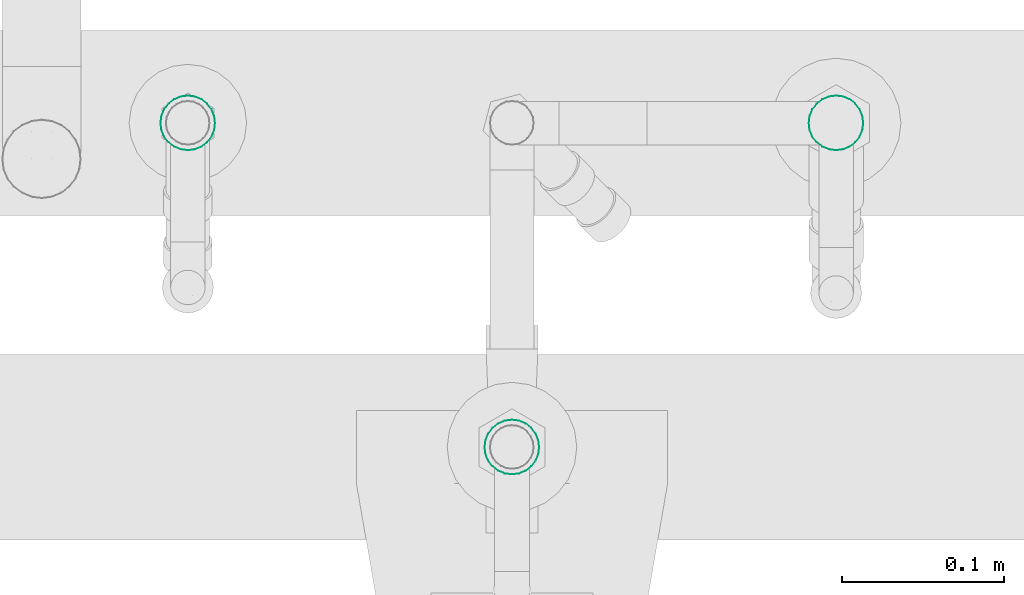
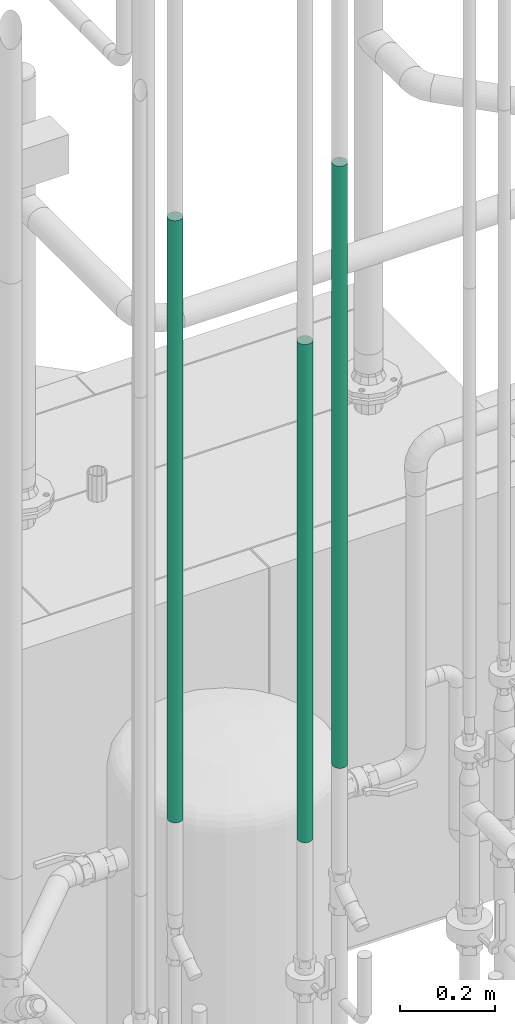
# One storey, part 8 of 374: 3 flow segments.
"""IFC2X3 building model written with IfcOpenShell, lengths in metres."""

import ifcopenshell
import ifcopenshell.guid

model = None  # the IFC model being written
_history = None  # IfcOwnerHistory: only IFC2X3 demands one
_inside = {}  # id of a spatial element -> (the spatial element, [elements in it])
_under = {}  # id of a project, library or spatial element -> (it, [spatial elements below it])
_declared = {}  # id of a project -> (the project, [libraries it declares])
_typed = {}  # id of a type object -> (the type object, [elements of that type])
_made_of = {}  # id of a material, layer set ... -> (it, [elements and type objects made of it])


def new_model(schema):
    """Start an empty IFC model of exactly this schema.

    Asked for "IFC4X3", IfcOpenShell would pick the latest addendum, in which some entities
    have other attributes; the version numbers below select the first issue.
    IFC2X3 requires an IfcOwnerHistory on every rooted entity: one is made here for all.
    """
    global model, _history
    if schema == "IFC4X3":
        model = ifcopenshell.file(schema_version=(4, 3, 0, 0))
    else:
        model = ifcopenshell.file(schema=schema)
    _inside.clear()
    _under.clear()
    _declared.clear()
    _typed.clear()
    _made_of.clear()
    _history = None
    if model.schema == "IFC2X3":
        org = make("IfcOrganization", Name="unknown")
        user = make(
            "IfcPersonAndOrganization",
            ThePerson=make("IfcPerson", FamilyName="unknown"),
            TheOrganization=org,
        )
        app = make(
            "IfcApplication",
            ApplicationDeveloper=org,
            Version="unknown",
            ApplicationFullName="unknown",
            ApplicationIdentifier="unknown",
        )
        _history = make(
            "IfcOwnerHistory",
            OwningUser=user,
            OwningApplication=app,
            ChangeAction="ADDED",
            CreationDate=0,
        )
    return model


def make(cls, **values):
    """One entity of the class cls with the attributes given. An attribute that is None is left unset."""
    return model.create_entity(
        cls, **{name: value for name, value in values.items() if value is not None}
    )


def rooted(cls, **values):
    """An entity with a GlobalId (a new one), such as an element, a storey or a relation."""
    return make(cls, GlobalId=ifcopenshell.guid.new(), OwnerHistory=_history, **values)


def si_unit(unit_type, name, prefix=None):
    """IfcSIUnit, for example si_unit("LENGTHUNIT", "METRE", prefix="MILLI")."""
    return make("IfcSIUnit", UnitType=unit_type, Prefix=prefix, Name=name)


def assignment(units):
    """IfcUnitAssignment: the units of a project."""
    return None if units is None else make("IfcUnitAssignment", Units=units)


def point(xyz):
    """IfcCartesianPoint."""
    return None if xyz is None else make("IfcCartesianPoint", Coordinates=xyz)


def direction(xyz):
    """IfcDirection."""
    return None if xyz is None else make("IfcDirection", DirectionRatios=xyz)


def frame(location, z_axis=None, x_axis=None):
    """IfcAxis2Placement3D, a coordinate frame: its origin and axes. An axis left out is left unset."""
    return make(
        "IfcAxis2Placement3D",
        Location=point(location),
        Axis=direction(z_axis),
        RefDirection=direction(x_axis),
    )


def origin():
    """The frame at (0, 0, 0) with its axes left unset."""
    return frame((0.0, 0.0, 0.0))


def place(relative_to, where):
    """IfcLocalPlacement: puts the frame where relative to a parent placement (None: the world)."""
    return make(
        "IfcLocalPlacement", PlacementRelTo=relative_to, RelativePlacement=where
    )


def context(
    kind, dimensions, precision=None, world=None, true_north=None, identifier=None
):
    """IfcGeometricRepresentationContext, for example the 3D "Model" context."""
    return make(
        "IfcGeometricRepresentationContext",
        ContextIdentifier=identifier,
        ContextType=kind,
        CoordinateSpaceDimension=dimensions,
        Precision=precision,
        WorldCoordinateSystem=world,
        TrueNorth=true_north,
    )


def subcontext(parent, identifier, kind, view, scale=None):
    """IfcGeometricRepresentationSubContext, for example "Body" below "Model"."""
    return make(
        "IfcGeometricRepresentationSubContext",
        ContextIdentifier=identifier,
        ContextType=kind,
        ParentContext=parent,
        TargetScale=scale,
        TargetView=view,
    )


def project(units=None, contexts=None):
    """IfcProject with its units and contexts."""
    return rooted(
        "IfcProject",
        Name="project",
        RepresentationContexts=contexts,
        UnitsInContext=assignment(units),
    )


def spatial(cls, under=None, at=None, **own):
    """A site, building, storey or space (cls), placed at a placement, below another one or the project."""
    s = rooted(cls, ObjectPlacement=at, **own)
    if under is not None:
        _under.setdefault(under.id(), (under, []))[1].append(s)
    return s


def faces_of(points, faces, orient=None, outer=None):
    """IfcFace entities. A face is a list of loops; a loop is a list of indices into points, from 0.

    orient and outer hold one flag for each loop. By default every Orientation is true, the
    first loop of a face is its IfcFaceOuterBound and the others are IfcFaceBound.
    """
    made = []
    for i, loops in enumerate(faces):
        bounds = []
        for j, loop in enumerate(loops):
            is_outer = j == 0 if outer is None else outer[i][j]
            bounds.append(
                make(
                    "IfcFaceOuterBound" if is_outer else "IfcFaceBound",
                    Bound=make("IfcPolyLoop", Polygon=[points[k] for k in loop]),
                    Orientation=True if orient is None else orient[i][j],
                )
            )
        made.append(make("IfcFace", Bounds=bounds))
    return made


def open_shell(faces, orient=None, outer=None):
    """The faces of one IfcOpenShell. surface_model builds it on its shared points."""
    return ("IfcOpenShell", faces, orient, outer)


def surface_model(cls, points, shells):
    """IfcFaceBasedSurfaceModel or IfcShellBasedSurfaceModel (cls): surfaces that need not close."""
    shared = [point(p) for p in points]
    made = [make(c, CfsFaces=faces_of(shared, fs, o, b)) for c, fs, o, b in shells]
    if cls == "IfcFaceBasedSurfaceModel":
        return make(cls, FbsmFaces=made)
    return make(cls, SbsmBoundary=made)


def shape(context_of_items, identifier, shape_type, items):
    """IfcShapeRepresentation: the items that make up one representation, for example the "Body"."""
    return make(
        "IfcShapeRepresentation",
        ContextOfItems=context_of_items,
        RepresentationIdentifier=identifier,
        RepresentationType=shape_type,
        Items=items,
    )


def source(mapping_origin, context_of_items, identifier, shape_type, items):
    """IfcRepresentationMap: a shape defined once, which mapped items show again and again."""
    return make(
        "IfcRepresentationMap",
        MappingOrigin=mapping_origin,
        MappedRepresentation=shape(context_of_items, identifier, shape_type, items),
    )


def transform(
    local_origin,
    x_axis=None,
    y_axis=None,
    z_axis=None,
    scale=None,
    scale2=None,
    scale3=None,
    uniform=True,
):
    """IfcCartesianTransformationOperator3D, or its non-uniform kind. x_axis, y_axis, z_axis: its Axis1, 2, 3."""
    if uniform:
        return make(
            "IfcCartesianTransformationOperator3D",
            Axis1=direction(x_axis),
            Axis2=direction(y_axis),
            LocalOrigin=point(local_origin),
            Scale=scale,
            Axis3=direction(z_axis),
        )
    return make(
        "IfcCartesianTransformationOperator3DnonUniform",
        Axis1=direction(x_axis),
        Axis2=direction(y_axis),
        LocalOrigin=point(local_origin),
        Scale=scale,
        Axis3=direction(z_axis),
        Scale2=scale2,
        Scale3=scale3,
    )


def mapped(mapping_source, mapping_target):
    """IfcMappedItem: shows the shape of a source again, moved by a transform."""
    return make(
        "IfcMappedItem", MappingSource=mapping_source, MappingTarget=mapping_target
    )


def made_of(thing, what):
    """Note that an element or type object is made of a material, layer set ...; save() writes the relation."""
    if what is not None:
        _made_of.setdefault(what.id(), (what, []))[1].append(thing)
    return thing


def element(
    cls,
    number,
    at=None,
    inside=None,
    cuts=None,
    type_object=None,
    material=None,
    context=None,
    identifier="Body",
    shape_type=None,
    held_by="IfcProductDefinitionShape",
    body=None,
    shapes=None,
    **own,
):
    """One element of the class cls, such as IfcWall. Its Tag is "e" and its number.

    at: its placement. inside: the storey or other place that contains it. cuts: it is an
    opening in that element (IfcRelVoidsElement). A single representation is given by context,
    identifier, shape_type and body (its items); several are given by shapes. held_by: the class
    of the entity that holds the representations. save() writes the other relations.
    """
    e = rooted(cls, Tag="e%d" % number, ObjectPlacement=at, **own)
    if body is not None:
        shapes = [shape(context, identifier, shape_type, body)]
    if shapes is not None:
        e.Representation = make(held_by, Representations=shapes)
    if inside is not None:
        _inside.setdefault(inside.id(), (inside, []))[1].append(e)
    if cuts is not None:
        rooted(
            "IfcRelVoidsElement", RelatingBuildingElement=cuts, RelatedOpeningElement=e
        )
    if type_object is not None:
        _typed.setdefault(type_object.id(), (type_object, []))[1].append(e)
    return made_of(e, material)


def aggregate(whole, parts):
    """IfcRelAggregates: a whole, such as a stair, and the parts it consists of."""
    return rooted("IfcRelAggregates", RelatingObject=whole, RelatedObjects=parts)


def save(model, path):
    """Write the relations noted so far, then the file.

    IfcRelAggregates (storeys below a building ...), IfcRelContainedInSpatialStructure (elements
    in a storey), IfcRelDefinesByType, IfcRelAssociatesMaterial and IfcRelDeclares: one each for
    every whole, place, type object, material and project.
    """
    for whole, parts in _under.values():
        aggregate(whole, parts)
    for where, things in _inside.values():
        rooted(
            "IfcRelContainedInSpatialStructure",
            RelatedElements=things,
            RelatingStructure=where,
        )
    for kind, things in _typed.values():
        rooted("IfcRelDefinesByType", RelatedObjects=things, RelatingType=kind)
    for what, things in _made_of.values():
        rooted("IfcRelAssociatesMaterial", RelatedObjects=things, RelatingMaterial=what)
    for by, libraries in _declared.values():
        rooted("IfcRelDeclares", RelatingContext=by, RelatedDefinitions=libraries)
    model.write(path)


model = new_model("IFC2X3")

# Units and contexts
model_context = context("Model", 3, precision=1e-05, world=origin(), true_north=direction((-0.4480736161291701, 0.8939966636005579)))
body_context = subcontext(model_context, "Body", "Model", "MODEL_VIEW")
ifc_project = project(units=[si_unit("LENGTHUNIT", "METRE"), si_unit("AREAUNIT", "SQUARE_METRE"), si_unit("VOLUMEUNIT", "CUBIC_METRE"), si_unit("PLANEANGLEUNIT", "RADIAN"), si_unit("THERMODYNAMICTEMPERATUREUNIT", "KELVIN"), si_unit("MASSUNIT", "GRAM", prefix="KILO"), si_unit("TIMEUNIT", "SECOND")], contexts=[model_context])

# Site, building, storey
site_placement = place(None, origin())
site = spatial("IfcSite", under=ifc_project, at=site_placement, Name="Site 1", CompositionType="ELEMENT")
building_placement = place(site_placement, origin())
building = spatial("IfcBuilding", under=site, at=building_placement, Name="Undefined", CompositionType="ELEMENT")
storey_placement = place(building_placement, origin())
storey = spatial("IfcBuildingStorey", under=building, at=storey_placement, Name="Rez de chauss\x8ee", CompositionType="ELEMENT", Elevation=0.0)

# Flow segments
shared_shape_1 = source(origin(), body_context, "Body", "SurfaceModel", [
    surface_model("IfcFaceBasedSurfaceModel", [(0.0, 0.004398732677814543, 0.0), (0.0, 0.0, 0.0), (1.2806734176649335, 8.8817842e-16, 0.0), (1.2806734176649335, 0.004398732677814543, 0.0), (0.0, -0.004248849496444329, -0.00113847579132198), (1.2806734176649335, -0.004248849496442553, -0.0011384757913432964), (0.0, -0.008058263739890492, -0.003337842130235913), (1.2806734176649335, -0.008058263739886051, -0.003337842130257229), (0.0, -0.01116863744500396, -0.0064482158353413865), (1.2806734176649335, -0.01116863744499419, -0.006448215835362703), (0.0, -0.013368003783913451, -0.010257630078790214), (1.2806734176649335, -0.013368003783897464, -0.010257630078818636), (0.0, -0.014506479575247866, -0.014506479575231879), (1.2806734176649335, -0.014506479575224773, -0.0145064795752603), (0.0, -0.01450647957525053, -0.01890521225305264), (1.2806734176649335, -0.014506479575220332, -0.018905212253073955), (0.0, -0.013368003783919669, -0.023154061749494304), (1.2806734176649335, -0.013368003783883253, -0.023154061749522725), (0.0, -0.011168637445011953, -0.02696347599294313), (1.2806734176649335, -0.011168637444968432, -0.026963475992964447), (0.0, -0.008058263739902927, -0.03007384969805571), (1.2806734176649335, -0.008058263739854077, -0.03007384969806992), (0.0, -0.004248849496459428, -0.03227321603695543), (1.2806734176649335, -0.004248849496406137, -0.03227321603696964), (0.0, -1.5099033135e-14, -0.03341169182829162), (1.2806734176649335, 3.8191672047e-14, -0.03341169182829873), (0.0, 0.00439873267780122, -0.03341169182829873), (1.2806734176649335, 0.004398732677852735, -0.03341169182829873), (0.0, 0.008647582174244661, -0.03227321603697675), (1.2806734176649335, 0.008647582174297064, -0.03227321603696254), (0.0, 0.012456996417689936, -0.030073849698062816), (1.2806734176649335, 0.012456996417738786, -0.0300738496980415), (0.0, 0.01556737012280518, -0.026963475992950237), (1.2806734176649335, 0.015567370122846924, -0.026963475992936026), (0.0, 0.017766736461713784, -0.023154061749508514), (1.2806734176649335, 0.01776673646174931, -0.023154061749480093), (0.0, 0.018905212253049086, -0.01890521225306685), (1.2806734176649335, 0.018905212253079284, -0.018905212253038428), (0.0, 0.018905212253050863, -0.01450647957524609), (1.2806734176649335, 0.01890521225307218, -0.014506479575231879), (0.0, 0.01776673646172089, -0.01025763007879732), (1.2806734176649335, 0.017766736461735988, -0.010257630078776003), (0.0, 0.015567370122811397, -0.006448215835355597), (1.2806734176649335, 0.015567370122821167, -0.006448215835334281), (0.0, 0.012456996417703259, -0.0033378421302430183), (1.2806734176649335, 0.012456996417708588, -0.003337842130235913), (0.0, 0.00864758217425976, -0.0011384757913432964), (1.2806734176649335, 0.00864758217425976, -0.0011384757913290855)], [open_shell([[[0, 1, 2, 3]], [[1, 4, 5, 2]], [[4, 6, 7, 5]], [[6, 8, 9, 7]], [[8, 10, 11, 9]], [[10, 12, 13, 11]], [[12, 14, 15, 13]], [[14, 16, 17, 15]], [[16, 18, 19, 17]], [[18, 20, 21, 19]], [[20, 22, 23, 21]], [[22, 24, 25, 23]], [[24, 26, 27, 25]], [[26, 28, 29, 27]], [[28, 30, 31, 29]], [[30, 32, 33, 31]], [[32, 34, 35, 33]], [[34, 36, 37, 35]], [[36, 38, 39, 37]], [[38, 40, 41, 39]], [[40, 42, 43, 41]], [[42, 44, 45, 43]], [[44, 46, 47, 45]], [[46, 0, 3, 47]]])]),
])
flow_segment_1_placement = place(storey_placement, origin())
element("IfcFlowSegment", 1, at=flow_segment_1_placement, inside=storey, Name="Tube acier d'après DIN 2448", ObjectType="Tube acier d'après DIN 2448", context=body_context, shape_type="MappedRepresentation", body=[
    mapped(shared_shape_1, transform((53.27383786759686, 10.722398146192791, 2.0695279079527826), x_axis=(0.0, 0.0, 1.0), y_axis=(0.13052619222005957, -0.9914448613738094, 0.0), z_axis=(0.9914448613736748, 0.13052619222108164, 0.0))),
])
shared_shape_2 = source(origin(), body_context, "Body", "SurfaceModel", [
    surface_model("IfcFaceBasedSurfaceModel", [(0.0, 0.004398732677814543, 0.0), (0.0, 0.0, 0.0), (1.5475720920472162, 0.0, 0.0), (1.5475720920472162, 0.004398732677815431, 0.0), (0.0, -0.004248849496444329, -0.00113847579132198), (1.5475720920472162, -0.004248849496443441, -0.0011384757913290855), (0.0, -0.008058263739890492, -0.003337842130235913), (1.5475720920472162, -0.008058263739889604, -0.003337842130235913), (0.0, -0.01116863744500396, -0.0064482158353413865), (1.5475720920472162, -0.011168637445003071, -0.006448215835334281), (0.0, -0.013368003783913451, -0.010257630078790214), (1.5475720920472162, -0.013368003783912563, -0.010257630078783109), (0.0, -0.014506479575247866, -0.014506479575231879), (1.5475720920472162, -0.014506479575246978, -0.014506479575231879), (0.0, -0.01450647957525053, -0.01890521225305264), (1.5475720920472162, -0.014506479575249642, -0.018905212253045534), (0.0, -0.013368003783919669, -0.023154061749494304), (1.5475720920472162, -0.01336800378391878, -0.023154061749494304), (0.0, -0.011168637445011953, -0.02696347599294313), (1.5475720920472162, -0.011168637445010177, -0.026963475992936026), (0.0, -0.008058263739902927, -0.03007384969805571), (1.5475720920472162, -0.008058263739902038, -0.030073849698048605), (0.0, -0.004248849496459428, -0.03227321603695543), (1.5475720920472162, -0.00424884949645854, -0.03227321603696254), (0.0, -1.5099033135e-14, -0.03341169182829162), (1.5475720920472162, -1.5099033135e-14, -0.03341169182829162), (0.0, 0.00439873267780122, -0.03341169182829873), (1.5475720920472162, 0.004398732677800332, -0.03341169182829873), (0.0, 0.008647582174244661, -0.03227321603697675), (1.5475720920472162, 0.008647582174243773, -0.03227321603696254), (0.0, 0.012456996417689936, -0.030073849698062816), (1.5475720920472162, 0.012456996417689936, -0.03007384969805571), (0.0, 0.01556737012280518, -0.026963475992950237), (1.5475720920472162, 0.015567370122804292, -0.026963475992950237), (0.0, 0.017766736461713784, -0.023154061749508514), (1.5475720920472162, 0.01776673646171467, -0.02315406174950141), (0.0, 0.018905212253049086, -0.01890521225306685), (1.5475720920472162, 0.018905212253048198, -0.018905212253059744), (0.0, 0.018905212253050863, -0.01450647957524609), (1.5475720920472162, 0.01890521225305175, -0.01450647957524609), (0.0, 0.01776673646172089, -0.01025763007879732), (1.5475720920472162, 0.01776673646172, -0.01025763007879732), (0.0, 0.015567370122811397, -0.006448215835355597), (1.5475720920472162, 0.015567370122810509, -0.006448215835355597), (0.0, 0.012456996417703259, -0.0033378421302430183), (1.5475720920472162, 0.01245699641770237, -0.0033378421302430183), (0.0, 0.00864758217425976, -0.0011384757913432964), (1.5475720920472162, 0.008647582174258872, -0.001138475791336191)], [open_shell([[[0, 1, 2, 3]], [[1, 4, 5, 2]], [[4, 6, 7, 5]], [[6, 8, 9, 7]], [[8, 10, 11, 9]], [[10, 12, 13, 11]], [[12, 14, 15, 13]], [[14, 16, 17, 15]], [[16, 18, 19, 17]], [[18, 20, 21, 19]], [[20, 22, 23, 21]], [[22, 24, 25, 23]], [[24, 26, 27, 25]], [[26, 28, 29, 27]], [[28, 30, 31, 29]], [[30, 32, 33, 31]], [[32, 34, 35, 33]], [[34, 36, 37, 35]], [[36, 38, 39, 37]], [[38, 40, 41, 39]], [[40, 42, 43, 41]], [[42, 44, 45, 43]], [[44, 46, 47, 45]], [[46, 0, 3, 47]]])]),
])
flow_segment_2_placement = place(storey_placement, origin())
element("IfcFlowSegment", 2, at=flow_segment_2_placement, inside=storey, Name="Tube acier d'après DIN 2448", ObjectType="Tube acier d'après DIN 2448", context=body_context, shape_type="MappedRepresentation", body=[
    mapped(shared_shape_2, transform((53.04128616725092, 10.913675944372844, 2.0695279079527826), x_axis=(0.0, 0.0, 1.0), y_axis=(-0.13052619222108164, 0.9914448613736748, 0.0), z_axis=(-0.9914448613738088, -0.13052619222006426, 0.0))),
])
flow_segment_3_placement = place(storey_placement, origin())
element("IfcFlowSegment", 3, at=flow_segment_3_placement, inside=storey, Name="Tube acier d'après DIN 2448", ObjectType="Tube acier d'après DIN 2448", context=body_context, shape_type="MappedRepresentation", body=[
    mapped(shared_shape_2, transform((53.44128616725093, 10.913675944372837, 2.0695279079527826), x_axis=(0.0, 0.0, 1.0), y_axis=(-0.13052619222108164, 0.9914448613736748, 0.0), z_axis=(-0.9914448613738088, -0.13052619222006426, 0.0))),
])

save(model, "model.ifc")
